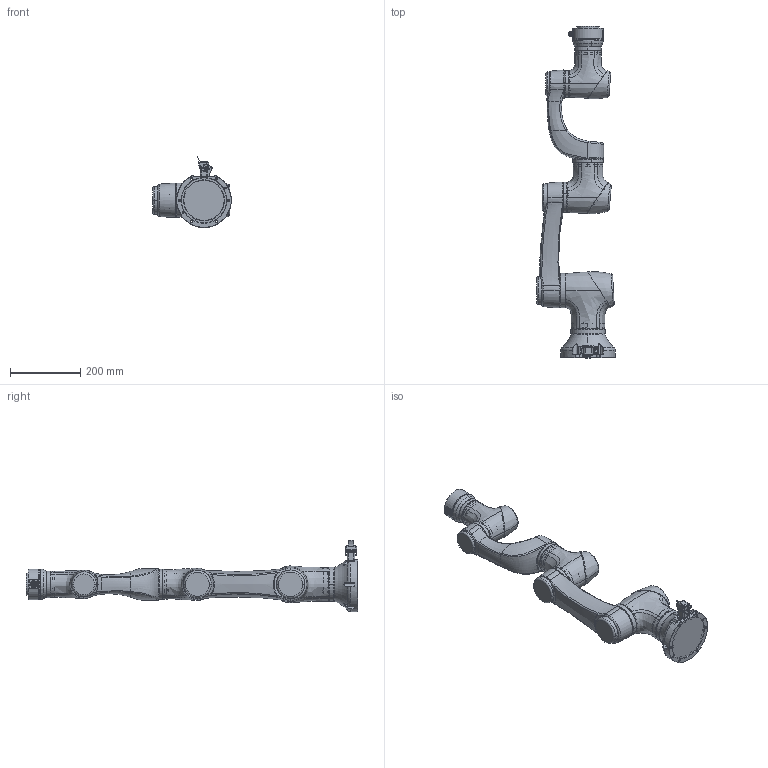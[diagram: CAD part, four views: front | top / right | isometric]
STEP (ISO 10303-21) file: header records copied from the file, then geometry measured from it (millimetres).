
FILE_DESCRIPTION (( 'STEP AP203' ), '1' );
FILE_NAME ('P03_潠趙_full.STEP', '2022-04-09T10:37:35', ( '' ), ( '' ), 'SwSTEP 2.0', 'SolidWorks 2020', '' );
FILE_SCHEMA (( 'CONFIG_CONTROL_DESIGN' ));
Length unit declared in the file: millimetre
Products named in the file (8): E03_IP66狟旋郪璃_潠趙; P_14_潠趙_full; E03_IP66奻旋郪璃_潠趙; P_20_潠趙_full; P_17_潠趙_full; P03_潠趙_full; P03菁釱郪璃_IP54_潠趙; IO_14_IP66_EtherCat
Assembly tree (7 placements, depth 2):
  P03_潠趙_full
    P_14_潠趙_full
    P_17_潠趙_full
    P_20_潠趙_full
    E03_IP66奻旋郪璃_潠趙
    E03_IP66狟旋郪璃_潠趙
    P03菁釱郪璃_IP54_潠趙
    IO_14_IP66_EtherCat
Bounding box: 224.47 x 948 x 203.44 mm (x, y, z)
Volume: 2383415.2 mm3; surface area: 1026878.8 mm2
Topology: 55 solids, 69 shells, 4387 faces, 11457 edges, 7306 vertices
Faces by surface type: plane 2066, bspline 948, cylinder 920, cone 313, torus 116, sphere 24
Entity records: 280441 total; most frequent: CARTESIAN_POINT 179990, ORIENTED_EDGE 22812, DIRECTION 17566, EDGE_CURVE 11410, VERTEX_POINT 7306, LINE 5870, VECTOR 5870, AXIS2_PLACEMENT_3D 5848
